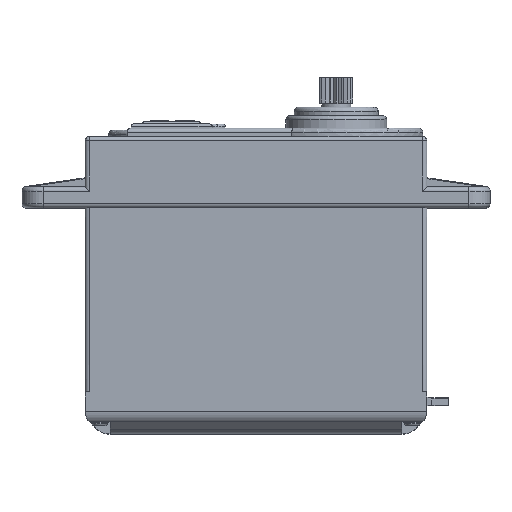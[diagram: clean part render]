
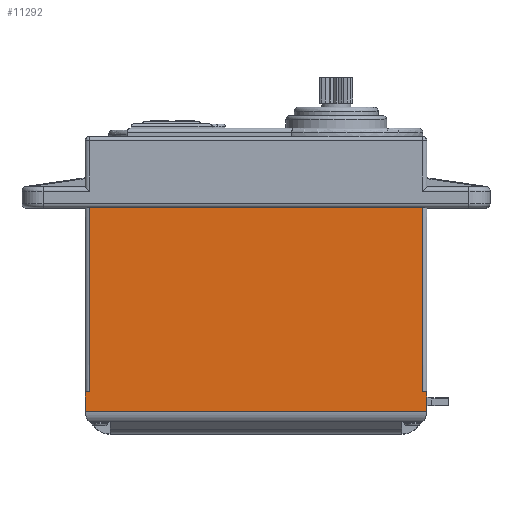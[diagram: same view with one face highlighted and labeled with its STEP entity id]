
A CAD part, top view. The second image highlights one B-rep face of the part: STEP entity #11292.
In plain terms, the highlighted planar face has unit normal (0, 0, 1).
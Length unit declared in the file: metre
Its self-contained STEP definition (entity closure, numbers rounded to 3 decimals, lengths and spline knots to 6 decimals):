
#683=PLANE('',#15789);
#890=LINE('',#18776,#1840);
#1428=LINE('',#22789,#2378);
#1435=LINE('',#22807,#2385);
#1441=LINE('',#22819,#2391);
#1442=LINE('',#22823,#2392);
#1443=LINE('',#22825,#2393);
#1444=LINE('',#22826,#2394);
#1445=LINE('',#22827,#2395);
#1840=VECTOR('',#16191,1.);
#2378=VECTOR('',#17721,1.);
#2385=VECTOR('',#17738,1.);
#2391=VECTOR('',#17750,1.);
#2392=VECTOR('',#17755,1.);
#2393=VECTOR('',#17758,1.);
#2394=VECTOR('',#17759,1.);
#2395=VECTOR('',#17760,1.);
#4899=ORIENTED_EDGE('',*,*,#6982,.T.);
#4900=ORIENTED_EDGE('',*,*,#6985,.T.);
#4901=ORIENTED_EDGE('',*,*,#6975,.F.);
#4902=ORIENTED_EDGE('',*,*,#6986,.T.);
#4903=ORIENTED_EDGE('',*,*,#5958,.T.);
#4904=ORIENTED_EDGE('',*,*,#6987,.T.);
#4905=ORIENTED_EDGE('',*,*,#6984,.T.);
#4906=ORIENTED_EDGE('',*,*,#6966,.T.);
#5958=EDGE_CURVE('',#7511,#7510,#890,.T.);
#6966=EDGE_CURVE('',#8144,#8145,#1428,.F.);
#6975=EDGE_CURVE('',#8151,#8152,#1435,.T.);
#6982=EDGE_CURVE('',#8145,#8154,#1441,.F.);
#6984=EDGE_CURVE('',#8155,#8144,#1442,.T.);
#6985=EDGE_CURVE('',#8154,#8152,#1443,.F.);
#6986=EDGE_CURVE('',#8151,#7511,#1444,.T.);
#6987=EDGE_CURVE('',#7510,#8155,#1445,.F.);
#7510=VERTEX_POINT('',#18775);
#7511=VERTEX_POINT('',#18777);
#8144=VERTEX_POINT('',#22786);
#8145=VERTEX_POINT('',#22788);
#8151=VERTEX_POINT('',#22806);
#8152=VERTEX_POINT('',#22808);
#8154=VERTEX_POINT('',#22818);
#8155=VERTEX_POINT('',#22822);
#9201=EDGE_LOOP('',(#4899,#4900,#4901,#4902,#4903,#4904,#4905,#4906));
#9875=FACE_BOUND('',#9201,.T.);
#11292=ADVANCED_FACE('',(#9875),#683,.T.);
#15789=AXIS2_PLACEMENT_3D('',#22824,#17756,#17757);
#16191=DIRECTION('',(0.,1.,0.));
#17721=DIRECTION('',(1.,0.,0.));
#17738=DIRECTION('',(0.,1.,0.));
#17750=DIRECTION('',(0.,1.,0.));
#17755=DIRECTION('',(0.,1.,0.));
#17756=DIRECTION('',(0.,0.,1.));
#17757=DIRECTION('',(1.,0.,0.));
#17758=DIRECTION('',(1.,0.,0.));
#17759=DIRECTION('',(1.,0.,0.));
#17760=DIRECTION('',(1.,0.,0.));
#18775=CARTESIAN_POINT('',(0.0407,0.005,0.0197));
#18776=CARTESIAN_POINT('',(0.0407,0.,0.0197));
#18777=CARTESIAN_POINT('',(0.0407,0.002707,0.0197));
#22786=CARTESIAN_POINT('',(0.0402,0.0269,0.0197));
#22788=CARTESIAN_POINT('',(0.0005,0.0269,0.0197));
#22789=CARTESIAN_POINT('',(0.,0.0269,0.0197));
#22806=CARTESIAN_POINT('',(0.,0.002707,0.0197));
#22807=CARTESIAN_POINT('',(0.,0.,0.0197));
#22808=CARTESIAN_POINT('',(0.,0.005,0.0197));
#22818=CARTESIAN_POINT('',(0.0005,0.005,0.0197));
#22819=CARTESIAN_POINT('',(0.0005,0.,0.0197));
#22822=CARTESIAN_POINT('',(0.0402,0.005,0.0197));
#22823=CARTESIAN_POINT('',(0.0402,0.,0.0197));
#22824=CARTESIAN_POINT('',(0.,0.,0.0197));
#22825=CARTESIAN_POINT('',(0.02035,0.005,0.0197));
#22826=CARTESIAN_POINT('',(0.,0.002707,0.0197));
#22827=CARTESIAN_POINT('',(0.02035,0.005,0.0197));
